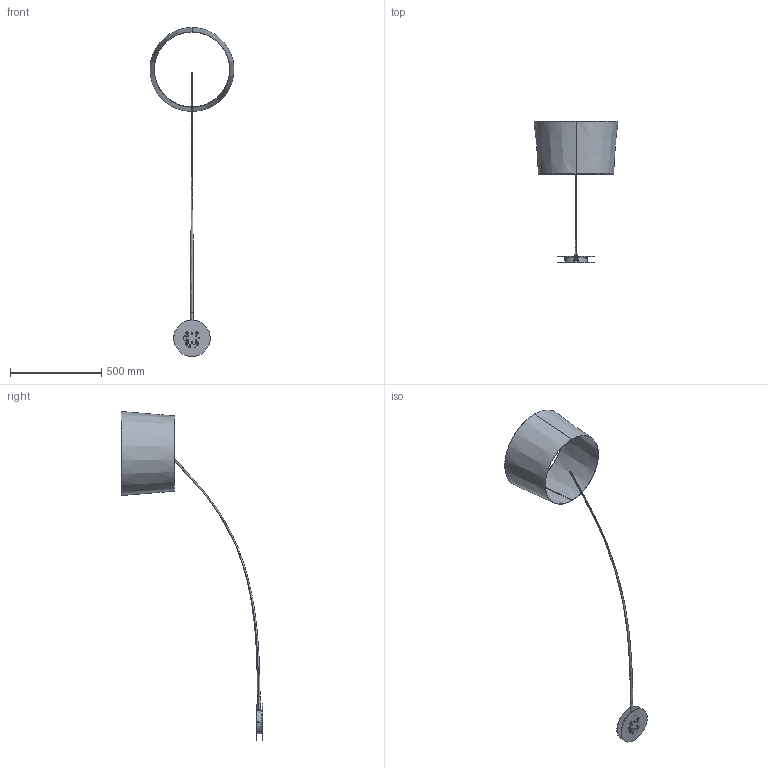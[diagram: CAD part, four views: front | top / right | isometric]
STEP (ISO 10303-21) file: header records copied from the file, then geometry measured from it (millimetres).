
FILE_DESCRIPTION (( 'STEP AP203' ), '1' );
FILE_NAME ('159_STD_C_PL_3D.STEP', '2025-03-12T08:29:58', ( '' ), ( '' ), 'SwSTEP 2.0', 'SolidWorks 2024', '' );
FILE_SCHEMA (( 'CONFIG_CONTROL_DESIGN' ));
Length unit declared in the file: millimetre
Products named in the file (1): 159_STD_C_PL_3D
Bounding box: 459.98 x 774.74 x 1802.42 mm (x, y, z)
Volume: 638464.1 mm3; surface area: 1074109.1 mm2
Topology: 7 solids, 7 shells, 199 faces, 505 edges, 324 vertices
Faces by surface type: cylinder 123, plane 37, cone 31, bspline 4, torus 4
Entity records: 9283 total; most frequent: CARTESIAN_POINT 4182, DIRECTION 1105, ORIENTED_EDGE 1010, EDGE_CURVE 505, AXIS2_PLACEMENT_3D 462, VERTEX_POINT 324, CIRCLE 266, EDGE_LOOP 259
